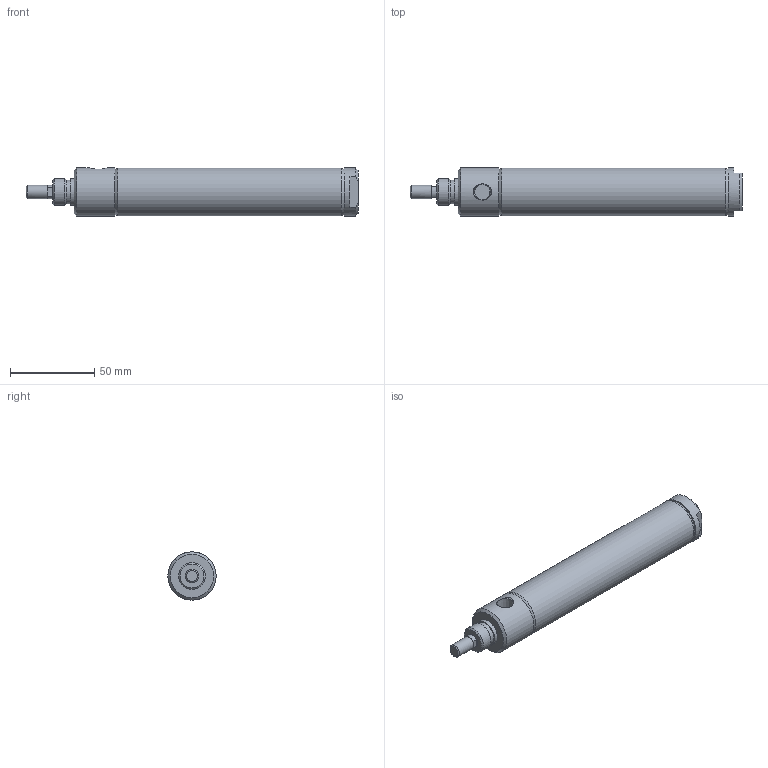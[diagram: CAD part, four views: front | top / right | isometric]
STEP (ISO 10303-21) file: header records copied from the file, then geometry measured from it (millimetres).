
FILE_DESCRIPTION( ( 'STEP AP214' ), '1' );
FILE_NAME( 'p:/temp/worker_409/temp/exporttempdir_5796_181_mG5fn/format_0/1062D01-04A.stp', '2020-05-07T14:48:40', ( 'License CC BY-ND 4.0' ), ( 'CADENAS' ), ' ', 'PARTsolutions', ' ' );
FILE_SCHEMA( ( 'AUTOMOTIVE_DESIGN { 1 0 10303 214 1 1 1 1 }' ) );
Length unit declared in the file: inch
Products named in the file (3): 1062D01-04A; _1062D01-04A-001062D01-04A-0000A00A0b; _1062D01-04A-001062D01-04A-0000A00A0r
Assembly tree (2 placements, depth 2):
  1062D01-04A
    _1062D01-04A-001062D01-04A-0000A00A0b
    _1062D01-04A-001062D01-04A-0000A00A0r
Bounding box: 196.85 x 28.57 x 28.57 mm (x, y, z)
Volume: 55056.2 mm3; surface area: 38430.3 mm2
Topology: 2 solids, 2 shells, 51 faces, 99 edges, 62 vertices
Faces by surface type: plane 26, cone 13, cylinder 12
Full cylindrical faces by diameter (mm): 7.938 x1, 7.95 x3, 14.196 x1, 15.85 x1, 15.875 x1, 26.987 x2, 28.397 x1, 28.575 x2
Entity records: 1700 total; most frequent: CARTESIAN_POINT 278, DIRECTION 220, ORIENTED_EDGE 148, AXIS2_PLACEMENT_3D 100, EDGE_LOOP 82, EDGE_CURVE 74, FACE_OUTER_BOUND 63, VERTEX_POINT 58
